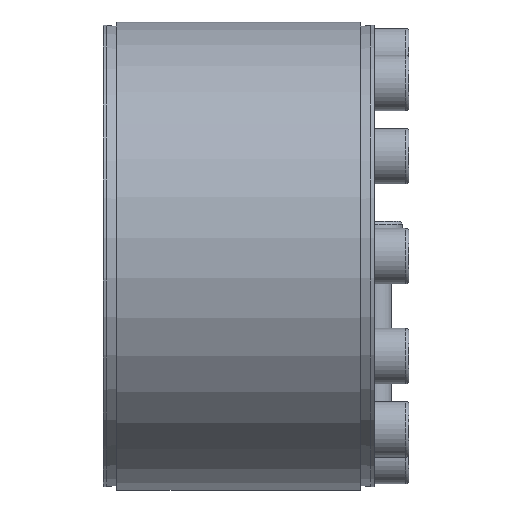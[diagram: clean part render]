
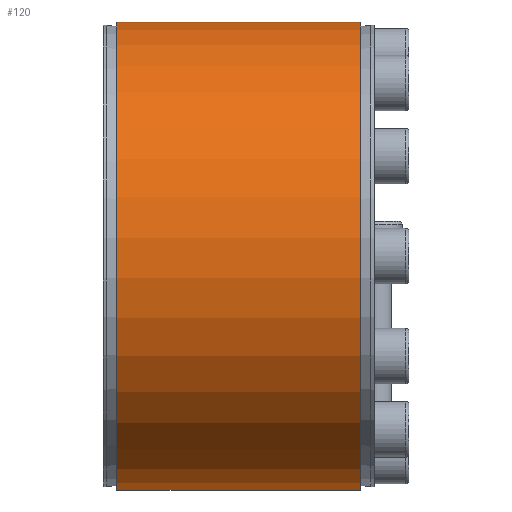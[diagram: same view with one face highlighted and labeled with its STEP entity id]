
A CAD part, left-side view. The second image highlights one B-rep face of the part: STEP entity #120.
In plain terms, the highlighted cylindrical face has radius 67.5 mm (diameter 135 mm), a partial arc.
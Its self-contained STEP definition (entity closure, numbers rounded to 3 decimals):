
#120 = ADVANCED_FACE( '', ( #298 ), #299, .T. );
#298 = FACE_OUTER_BOUND( '', #612, .T. );
#299 = CYLINDRICAL_SURFACE( '', #613, 67.5 );
#612 = EDGE_LOOP( '', ( #984, #985, #986, #987 ) );
#613 = AXIS2_PLACEMENT_3D( '', #988, #989, #990 );
#984 = ORIENTED_EDGE( '', *, *, #1486, .F. );
#985 = ORIENTED_EDGE( '', *, *, #1487, .T. );
#986 = ORIENTED_EDGE( '', *, *, #1488, .F. );
#987 = ORIENTED_EDGE( '', *, *, #1489, .F. );
#988 = CARTESIAN_POINT( '', ( 0., -60., 0. ) );
#989 = DIRECTION( '', ( 0., 1., 0. ) );
#990 = DIRECTION( '', ( 0., 0., -1. ) );
#1486 = EDGE_CURVE( '', #1766, #1767, #1768, .T. );
#1487 = EDGE_CURVE( '', #1766, #1769, #1770, .T. );
#1488 = EDGE_CURVE( '', #1771, #1769, #1772, .F. );
#1489 = EDGE_CURVE( '', #1767, #1771, #1773, .T. );
#1766 = VERTEX_POINT( '', #2207 );
#1767 = VERTEX_POINT( '', #2208 );
#1768 = LINE( '', #2209, #2210 );
#1769 = VERTEX_POINT( '', #2211 );
#1770 = CIRCLE( '', #2212, 67.5 );
#1771 = VERTEX_POINT( '', #2213 );
#1772 = LINE( '', #2214, #2215 );
#1773 = CIRCLE( '', #2216, 67.5 );
#2207 = CARTESIAN_POINT( '', ( 16.26, 74., 65.512 ) );
#2208 = CARTESIAN_POINT( '', ( 16.26, 4., 65.512 ) );
#2209 = CARTESIAN_POINT( '', ( 16.26, -60., 65.512 ) );
#2210 = VECTOR( '', #2593, 1000. );
#2211 = CARTESIAN_POINT( '', ( 18.675, 74., 64.865 ) );
#2212 = AXIS2_PLACEMENT_3D( '', #2594, #2595, #2596 );
#2213 = CARTESIAN_POINT( '', ( 18.675, 4., 64.865 ) );
#2214 = CARTESIAN_POINT( '', ( 18.675, -60., 64.865 ) );
#2215 = VECTOR( '', #2597, 1000. );
#2216 = AXIS2_PLACEMENT_3D( '', #2598, #2599, #2600 );
#2593 = DIRECTION( '', ( 0., -1., 0. ) );
#2594 = CARTESIAN_POINT( '', ( 0., 74., 0. ) );
#2595 = DIRECTION( '', ( 0., -1., 0. ) );
#2596 = DIRECTION( '', ( 0., 0., -1. ) );
#2597 = DIRECTION( '', ( 0., -1., 0. ) );
#2598 = CARTESIAN_POINT( '', ( 0., 4., 0. ) );
#2599 = DIRECTION( '', ( 0., -1., 0. ) );
#2600 = DIRECTION( '', ( 0., 0., -1. ) );
